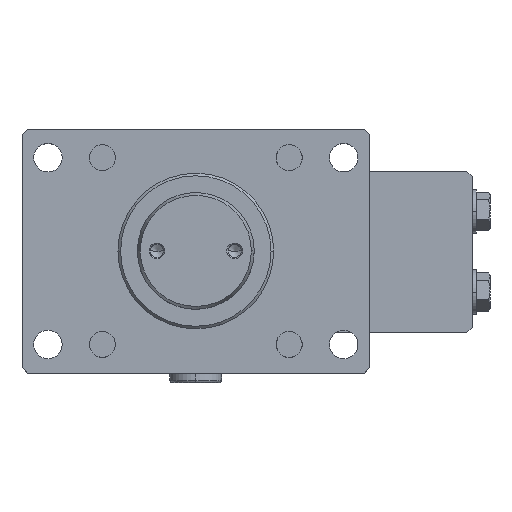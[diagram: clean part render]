
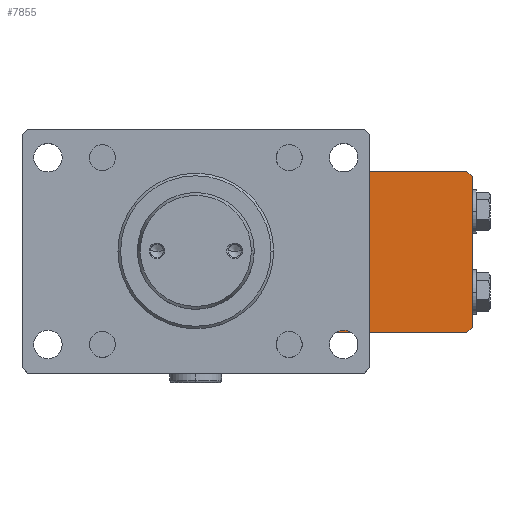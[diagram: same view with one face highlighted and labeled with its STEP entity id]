
A CAD part, top view. The second image highlights one B-rep face of the part: STEP entity #7855.
In plain terms, the highlighted planar face has unit normal (0, 0, 1).
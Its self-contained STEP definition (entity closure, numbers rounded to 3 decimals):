
#43 = DIRECTION ( 'NONE',  ( 0.707, 0.707, 0. ) ) ;
#256 = VERTEX_POINT ( 'NONE', #3051 ) ;
#534 = LINE ( 'NONE', #2693, #4764 ) ;
#688 = VECTOR ( 'NONE', #5683, 1000. ) ;
#818 = DIRECTION ( 'NONE',  ( -1., 0., 0. ) ) ;
#1141 = ORIENTED_EDGE ( 'NONE', *, *, #11373, .T. ) ;
#1171 = LINE ( 'NONE', #11336, #7968 ) ;
#1259 = CARTESIAN_POINT ( 'NONE',  ( 106.5, -29., -161.4 ) ) ;
#1361 = ORIENTED_EDGE ( 'NONE', *, *, #9532, .T. ) ;
#2186 = CARTESIAN_POINT ( 'NONE',  ( 44.5, 29., -161.4 ) ) ;
#2190 = VERTEX_POINT ( 'NONE', #11319 ) ;
#2693 = CARTESIAN_POINT ( 'NONE',  ( 106.5, -29., -161.4 ) ) ;
#2820 = VERTEX_POINT ( 'NONE', #5015 ) ;
#2921 = AXIS2_PLACEMENT_3D ( 'NONE', #9606, #6186, #818 ) ;
#3051 = CARTESIAN_POINT ( 'NONE',  ( 104.5, 31., -161.4 ) ) ;
#3251 = EDGE_CURVE ( 'NONE', #2820, #8934, #5880, .T. ) ;
#3594 = ORIENTED_EDGE ( 'NONE', *, *, #8222, .F. ) ;
#3614 = LINE ( 'NONE', #7568, #10838 ) ;
#3654 = LINE ( 'NONE', #4805, #688 ) ;
#3812 = EDGE_CURVE ( 'NONE', #7032, #8934, #3614, .T. ) ;
#3996 = CARTESIAN_POINT ( 'NONE',  ( 106.5, -31., -161.4 ) ) ;
#4764 = VECTOR ( 'NONE', #43, 1000. ) ;
#4805 = CARTESIAN_POINT ( 'NONE',  ( 106.5, 31., -161.4 ) ) ;
#4865 = VECTOR ( 'NONE', #9693, 1000. ) ;
#5015 = CARTESIAN_POINT ( 'NONE',  ( 46.5, -31., -161.4 ) ) ;
#5030 = EDGE_CURVE ( 'NONE', #2190, #2820, #8528, .T. ) ;
#5535 = ORIENTED_EDGE ( 'NONE', *, *, #3251, .F. ) ;
#5683 = DIRECTION ( 'NONE',  ( -1., 0., 0. ) ) ;
#5880 = LINE ( 'NONE', #7730, #9113 ) ;
#6171 = DIRECTION ( 'NONE',  ( -0.707, 0.707, 0. ) ) ;
#6186 = DIRECTION ( 'NONE',  ( 0., 0., -1. ) ) ;
#6349 = EDGE_CURVE ( 'NONE', #2190, #9835, #534, .T. ) ;
#6581 = CARTESIAN_POINT ( 'NONE',  ( 46.5, 31., -161.4 ) ) ;
#6618 = CARTESIAN_POINT ( 'NONE',  ( 106.5, 29., -161.4 ) ) ;
#6663 = VECTOR ( 'NONE', #10951, 1000. ) ;
#6732 = DIRECTION ( 'NONE',  ( -0.707, 0.707, 0. ) ) ;
#6998 = VERTEX_POINT ( 'NONE', #6581 ) ;
#7032 = VERTEX_POINT ( 'NONE', #2186 ) ;
#7135 = EDGE_LOOP ( 'NONE', ( #9632, #5535, #10753, #9427, #3594, #1361, #1141, #8060 ) ) ;
#7568 = CARTESIAN_POINT ( 'NONE',  ( 44.5, -31., -161.4 ) ) ;
#7730 = CARTESIAN_POINT ( 'NONE',  ( 44.5, -29., -161.4 ) ) ;
#7855 = ADVANCED_FACE ( 'NONE', ( #10970 ), #11349, .F. ) ;
#7968 = VECTOR ( 'NONE', #6171, 1000. ) ;
#8060 = ORIENTED_EDGE ( 'NONE', *, *, #8523, .F. ) ;
#8222 = EDGE_CURVE ( 'NONE', #8755, #9835, #9224, .T. ) ;
#8523 = EDGE_CURVE ( 'NONE', #7032, #6998, #9475, .T. ) ;
#8528 = LINE ( 'NONE', #9249, #10545 ) ;
#8755 = VERTEX_POINT ( 'NONE', #6618 ) ;
#8909 = DIRECTION ( 'NONE',  ( 0., -1., 0. ) ) ;
#8934 = VERTEX_POINT ( 'NONE', #9430 ) ;
#9113 = VECTOR ( 'NONE', #6732, 1000. ) ;
#9224 = LINE ( 'NONE', #3996, #6663 ) ;
#9249 = CARTESIAN_POINT ( 'NONE',  ( 106.5, -31., -161.4 ) ) ;
#9427 = ORIENTED_EDGE ( 'NONE', *, *, #6349, .T. ) ;
#9430 = CARTESIAN_POINT ( 'NONE',  ( 44.5, -29., -161.4 ) ) ;
#9475 = LINE ( 'NONE', #9626, #4865 ) ;
#9532 = EDGE_CURVE ( 'NONE', #8755, #256, #1171, .T. ) ;
#9606 = CARTESIAN_POINT ( 'NONE',  ( 106.5, -31., -161.4 ) ) ;
#9626 = CARTESIAN_POINT ( 'NONE',  ( 44.5, 29., -161.4 ) ) ;
#9632 = ORIENTED_EDGE ( 'NONE', *, *, #3812, .T. ) ;
#9693 = DIRECTION ( 'NONE',  ( 0.707, 0.707, 0. ) ) ;
#9835 = VERTEX_POINT ( 'NONE', #1259 ) ;
#10099 = DIRECTION ( 'NONE',  ( -1., 0., 0. ) ) ;
#10545 = VECTOR ( 'NONE', #10099, 1000. ) ;
#10753 = ORIENTED_EDGE ( 'NONE', *, *, #5030, .F. ) ;
#10838 = VECTOR ( 'NONE', #8909, 1000. ) ;
#10951 = DIRECTION ( 'NONE',  ( 0., -1., 0. ) ) ;
#10970 = FACE_OUTER_BOUND ( 'NONE', #7135, .T. ) ;
#11319 = CARTESIAN_POINT ( 'NONE',  ( 104.5, -31., -161.4 ) ) ;
#11336 = CARTESIAN_POINT ( 'NONE',  ( 106.5, 29., -161.4 ) ) ;
#11349 = PLANE ( 'NONE',  #2921 ) ;
#11373 = EDGE_CURVE ( 'NONE', #256, #6998, #3654, .T. ) ;
